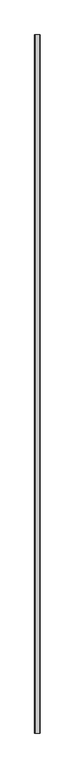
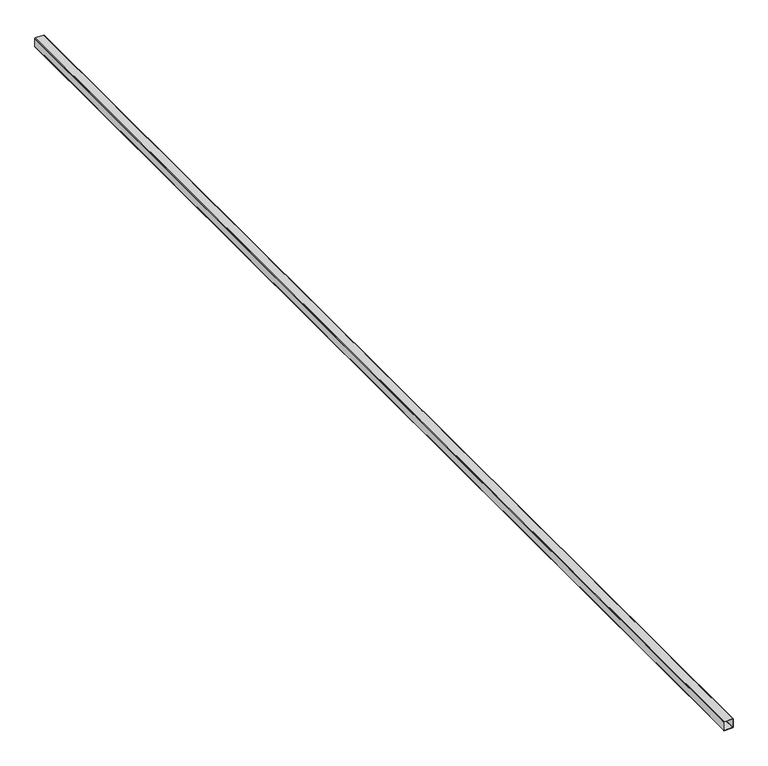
"""IFC4 building model written with IfcOpenShell, lengths in millimetres: beam geometry, Lisse acrot?re 156680 : Lisse acrot?re 156680."""

import ifcopenshell
import ifcopenshell.guid

model = None  # the IFC model being written
_history = None  # IfcOwnerHistory: only IFC2X3 demands one
_inside = {}  # id of a spatial element -> (the spatial element, [elements in it])
_under = {}  # id of a project, library or spatial element -> (it, [spatial elements below it])
_declared = {}  # id of a project -> (the project, [libraries it declares])
_typed = {}  # id of a type object -> (the type object, [elements of that type])
_made_of = {}  # id of a material, layer set ... -> (it, [elements and type objects made of it])


def new_model(schema):
    """Start an empty IFC model of exactly this schema.

    Asked for "IFC4X3", IfcOpenShell would pick the latest addendum, in which some entities
    have other attributes; the version numbers below select the first issue.
    IFC2X3 requires an IfcOwnerHistory on every rooted entity: one is made here for all.
    """
    global model, _history
    if schema == "IFC4X3":
        model = ifcopenshell.file(schema_version=(4, 3, 0, 0))
    else:
        model = ifcopenshell.file(schema=schema)
    _inside.clear()
    _under.clear()
    _declared.clear()
    _typed.clear()
    _made_of.clear()
    _history = None
    if model.schema == "IFC2X3":
        org = make("IfcOrganization", Name="unknown")
        user = make(
            "IfcPersonAndOrganization",
            ThePerson=make("IfcPerson", FamilyName="unknown"),
            TheOrganization=org,
        )
        app = make(
            "IfcApplication",
            ApplicationDeveloper=org,
            Version="unknown",
            ApplicationFullName="unknown",
            ApplicationIdentifier="unknown",
        )
        _history = make(
            "IfcOwnerHistory",
            OwningUser=user,
            OwningApplication=app,
            ChangeAction="ADDED",
            CreationDate=0,
        )
    return model


def make(cls, **values):
    """One entity of the class cls with the attributes given. An attribute that is None is left unset."""
    return model.create_entity(
        cls, **{name: value for name, value in values.items() if value is not None}
    )


def rooted(cls, **values):
    """An entity with a GlobalId (a new one), such as an element, a storey or a relation."""
    return make(cls, GlobalId=ifcopenshell.guid.new(), OwnerHistory=_history, **values)


def si_unit(unit_type, name, prefix=None):
    """IfcSIUnit, for example si_unit("LENGTHUNIT", "METRE", prefix="MILLI")."""
    return make("IfcSIUnit", UnitType=unit_type, Prefix=prefix, Name=name)


def assignment(units):
    """IfcUnitAssignment: the units of a project."""
    return None if units is None else make("IfcUnitAssignment", Units=units)


def point(xyz):
    """IfcCartesianPoint."""
    return None if xyz is None else make("IfcCartesianPoint", Coordinates=xyz)


def direction(xyz):
    """IfcDirection."""
    return None if xyz is None else make("IfcDirection", DirectionRatios=xyz)


def frame(location, z_axis=None, x_axis=None):
    """IfcAxis2Placement3D, a coordinate frame: its origin and axes. An axis left out is left unset."""
    return make(
        "IfcAxis2Placement3D",
        Location=point(location),
        Axis=direction(z_axis),
        RefDirection=direction(x_axis),
    )


def origin():
    """The frame at (0, 0, 0) with its axes left unset."""
    return frame((0.0, 0.0, 0.0))


def place(relative_to, where):
    """IfcLocalPlacement: puts the frame where relative to a parent placement (None: the world)."""
    return make(
        "IfcLocalPlacement", PlacementRelTo=relative_to, RelativePlacement=where
    )


def context(
    kind, dimensions, precision=None, world=None, true_north=None, identifier=None
):
    """IfcGeometricRepresentationContext, for example the 3D "Model" context."""
    return make(
        "IfcGeometricRepresentationContext",
        ContextIdentifier=identifier,
        ContextType=kind,
        CoordinateSpaceDimension=dimensions,
        Precision=precision,
        WorldCoordinateSystem=world,
        TrueNorth=true_north,
    )


def project(units=None, contexts=None):
    """IfcProject with its units and contexts."""
    return rooted(
        "IfcProject",
        Name="project",
        RepresentationContexts=contexts,
        UnitsInContext=assignment(units),
    )


def spatial(cls, under=None, at=None, **own):
    """A site, building, storey or space (cls), placed at a placement, below another one or the project."""
    s = rooted(cls, ObjectPlacement=at, **own)
    if under is not None:
        _under.setdefault(under.id(), (under, []))[1].append(s)
    return s


def polyline(points):
    """IfcPolyline through the points."""
    return make("IfcPolyline", Points=[point(p) for p in points])


def outline(outer, holes=None, kind="AREA"):
    """IfcArbitraryClosedProfileDef: a profile drawn as a closed curve; with holes, ...WithVoids."""
    if holes is None:
        return make("IfcArbitraryClosedProfileDef", ProfileType=kind, OuterCurve=outer)
    return make(
        "IfcArbitraryProfileDefWithVoids",
        ProfileType=kind,
        OuterCurve=outer,
        InnerCurves=holes,
    )


def extrude(swept, where, along, depth):
    """IfcExtrudedAreaSolid: the profile swept, set in the frame where, extruded along a direction by depth."""
    return make(
        "IfcExtrudedAreaSolid",
        SweptArea=swept,
        Position=where,
        ExtrudedDirection=direction(along),
        Depth=depth,
    )


def shape(context_of_items, identifier, shape_type, items):
    """IfcShapeRepresentation: the items that make up one representation, for example the "Body"."""
    return make(
        "IfcShapeRepresentation",
        ContextOfItems=context_of_items,
        RepresentationIdentifier=identifier,
        RepresentationType=shape_type,
        Items=items,
    )


def source(mapping_origin, context_of_items, identifier, shape_type, items):
    """IfcRepresentationMap: a shape defined once, which mapped items show again and again."""
    return make(
        "IfcRepresentationMap",
        MappingOrigin=mapping_origin,
        MappedRepresentation=shape(context_of_items, identifier, shape_type, items),
    )


def transform(
    local_origin,
    x_axis=None,
    y_axis=None,
    z_axis=None,
    scale=None,
    scale2=None,
    scale3=None,
    uniform=True,
):
    """IfcCartesianTransformationOperator3D, or its non-uniform kind. x_axis, y_axis, z_axis: its Axis1, 2, 3."""
    if uniform:
        return make(
            "IfcCartesianTransformationOperator3D",
            Axis1=direction(x_axis),
            Axis2=direction(y_axis),
            LocalOrigin=point(local_origin),
            Scale=scale,
            Axis3=direction(z_axis),
        )
    return make(
        "IfcCartesianTransformationOperator3DnonUniform",
        Axis1=direction(x_axis),
        Axis2=direction(y_axis),
        LocalOrigin=point(local_origin),
        Scale=scale,
        Axis3=direction(z_axis),
        Scale2=scale2,
        Scale3=scale3,
    )


def mapped(mapping_source, mapping_target):
    """IfcMappedItem: shows the shape of a source again, moved by a transform."""
    return make(
        "IfcMappedItem", MappingSource=mapping_source, MappingTarget=mapping_target
    )


def made_of(thing, what):
    """Note that an element or type object is made of a material, layer set ...; save() writes the relation."""
    if what is not None:
        _made_of.setdefault(what.id(), (what, []))[1].append(thing)
    return thing


def element(
    cls,
    number,
    at=None,
    inside=None,
    cuts=None,
    type_object=None,
    material=None,
    context=None,
    identifier="Body",
    shape_type=None,
    held_by="IfcProductDefinitionShape",
    body=None,
    shapes=None,
    **own,
):
    """One element of the class cls, such as IfcWall. Its Tag is "e" and its number.

    at: its placement. inside: the storey or other place that contains it. cuts: it is an
    opening in that element (IfcRelVoidsElement). A single representation is given by context,
    identifier, shape_type and body (its items); several are given by shapes. held_by: the class
    of the entity that holds the representations. save() writes the other relations.
    """
    e = rooted(cls, Tag="e%d" % number, ObjectPlacement=at, **own)
    if body is not None:
        shapes = [shape(context, identifier, shape_type, body)]
    if shapes is not None:
        e.Representation = make(held_by, Representations=shapes)
    if inside is not None:
        _inside.setdefault(inside.id(), (inside, []))[1].append(e)
    if cuts is not None:
        rooted(
            "IfcRelVoidsElement", RelatingBuildingElement=cuts, RelatedOpeningElement=e
        )
    if type_object is not None:
        _typed.setdefault(type_object.id(), (type_object, []))[1].append(e)
    return made_of(e, material)


def aggregate(whole, parts):
    """IfcRelAggregates: a whole, such as a stair, and the parts it consists of."""
    return rooted("IfcRelAggregates", RelatingObject=whole, RelatedObjects=parts)


def save(model, path):
    """Write the relations noted so far, then the file.

    IfcRelAggregates (storeys below a building ...), IfcRelContainedInSpatialStructure (elements
    in a storey), IfcRelDefinesByType, IfcRelAssociatesMaterial and IfcRelDeclares: one each for
    every whole, place, type object, material and project.
    """
    for whole, parts in _under.values():
        aggregate(whole, parts)
    for where, things in _inside.values():
        rooted(
            "IfcRelContainedInSpatialStructure",
            RelatedElements=things,
            RelatingStructure=where,
        )
    for kind, things in _typed.values():
        rooted("IfcRelDefinesByType", RelatedObjects=things, RelatingType=kind)
    for what, things in _made_of.values():
        rooted("IfcRelAssociatesMaterial", RelatedObjects=things, RelatingMaterial=what)
    for by, libraries in _declared.values():
        rooted("IfcRelDeclares", RelatingContext=by, RelatedDefinitions=libraries)
    model.write(path)


def beam_e0c5ccff(model_context):
    return source(origin(), model_context, "Body", "SweptSolid", [
        extrude(outline(polyline([(8456.0, -180.0000001), (8453.0, -179.1961526), (8450.8038476, -177.0000001), (8450.0, -174.0000001), (8450.0, -86.0000001), (8450.8038476, -83.0000001), (8453.0, -80.8038477), (8456.0, -80.0000001), (8544.0, -80.0000001), (8547.0, -80.8038477), (8549.1961524, -83.0000001), (8550.0, -86.0000001), (8550.0, -174.0000001), (8549.1961524, -177.0000001), (8547.0, -179.1961526), (8544.0, -180.0000001), (8456.0, -180.0000001)]), holes=[polyline([(8542.0, -176.0000001), (8544.0, -175.4641017), (8545.4641016, -174.0000001), (8546.0, -172.0000001), (8546.0, -88.0000001), (8545.4641016, -86.0000001), (8544.0, -84.5358985), (8542.0, -84.0000001), (8458.0, -84.0000001), (8456.0, -84.5358985), (8454.5358984, -86.0000001), (8454.0, -88.0000001), (8454.0, -172.0000001), (8454.5358984, -174.0000001), (8456.0, -175.4641017), (8458.0, -176.0000001), (8542.0, -176.0000001)])]), frame((0.0, -12715.0, 0.0), z_axis=(0.0, 1.0, 0.0), x_axis=(0.0, 0.0, 1.0)), (0.0, 0.0, 1.0), 12710.0),
    ])


if __name__ == "__main__":
    model = new_model("IFC4")
    model_context = context("Model", 3, world=origin())
    ifc_project = project(units=[si_unit("LENGTHUNIT", "METRE", prefix="MILLI")], contexts=[model_context])
    site = spatial("IfcSite", under=ifc_project)
    building = spatial("IfcBuilding", under=site)
    placement = place(None, origin())
    beam_shape = beam_e0c5ccff(model_context)
    element("IfcBeam", 1, ObjectType="Lisse acrot?re 156680 : Lisse acrot?re 156680", at=placement, inside=building, context=model_context, shape_type="MappedRepresentation", body=[
        mapped(beam_shape, transform((0.0, 0.0, 0.0), x_axis=(1.0, 0.0, 0.0), y_axis=(0.0, 1.0, 0.0), z_axis=(0.0, 0.0, 1.0))),
    ])
    save(model, "model.ifc")
